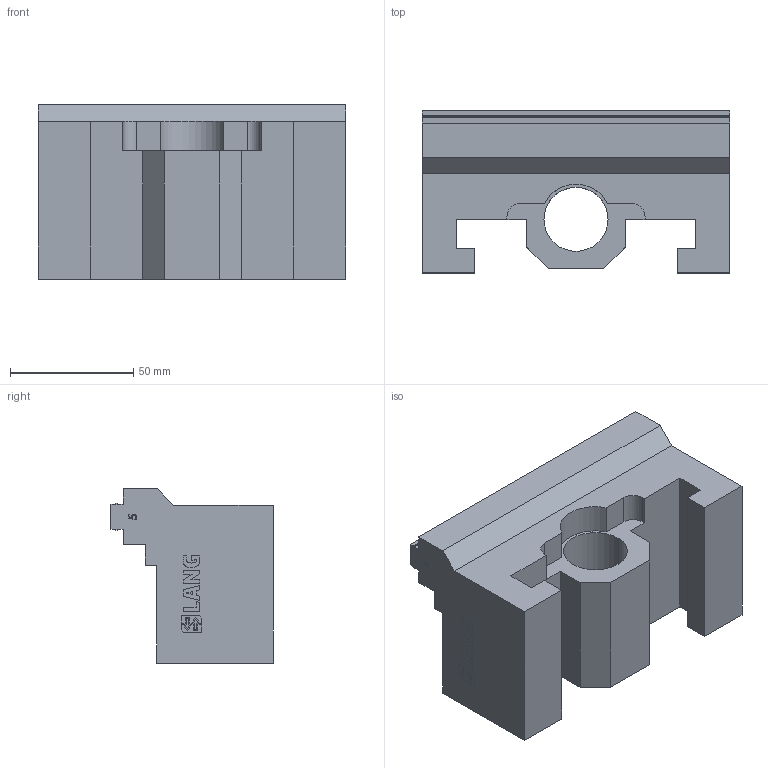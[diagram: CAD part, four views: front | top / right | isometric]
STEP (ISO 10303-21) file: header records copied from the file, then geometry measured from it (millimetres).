
FILE_DESCRIPTION (( 'STEP AP214' ), '1' );
FILE_NAME ('81485.STEP', '2020-10-27T13:35:15', ( '' ), ( '' ), 'SwSTEP 2.0', 'SolidWorks 2019', '' );
FILE_SCHEMA (( 'AUTOMOTIVE_DESIGN' ));
Length unit declared in the file: millimetre
Products named in the file (1): 81485
Bounding box: 124.6 x 65.8 x 70.7 mm (x, y, z)
Volume: 305839.1 mm3; surface area: 47648.4 mm2
Topology: 1 solids, 1 shells, 172 faces, 480 edges, 320 vertices
Faces by surface type: plane 140, bspline 25, cylinder 7
Entity records: 6374 total; most frequent: CARTESIAN_POINT 1714, ORIENTED_EDGE 960, DIRECTION 740, EDGE_CURVE 480, LINE 416, VECTOR 416, VERTEX_POINT 320, EDGE_LOOP 184
